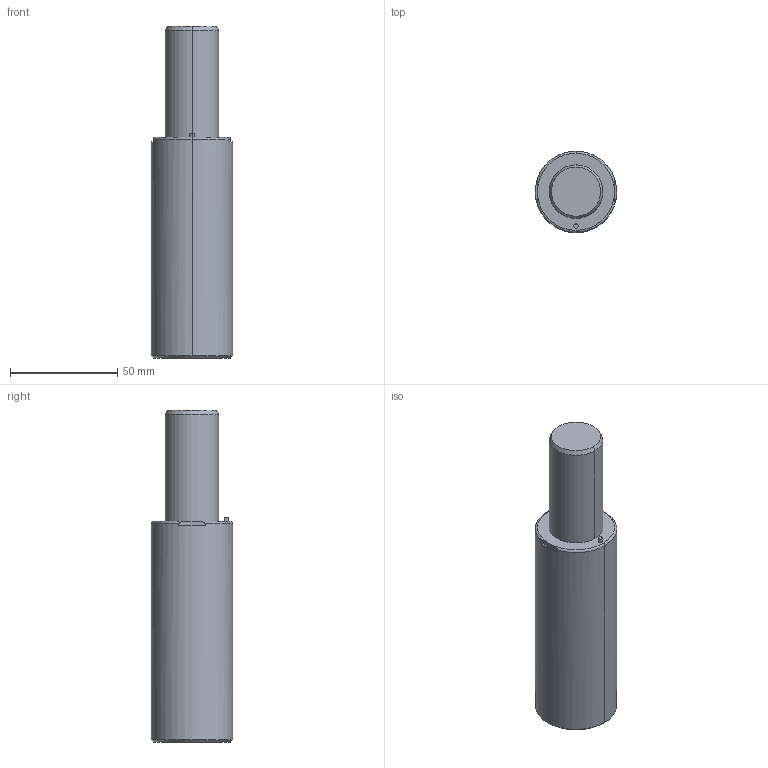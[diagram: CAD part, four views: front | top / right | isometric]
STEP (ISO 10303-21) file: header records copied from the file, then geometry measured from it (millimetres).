
FILE_DESCRIPTION(/* description */ (''),/* implementation_level */ '2;1');
FILE_NAME(/* name */ '3d_gsx38-50_03987_r00.stp',/* time_stamp */ '2011-01-10T14:15:13+09:00',/* author */ ('MISUMI'),/* organization */ (''),/* preprocessor_version */ 'ST-DEVELOPER v11',/* originating_system */ 'UGS - NX 5.0',/* authorisation */ '');
FILE_SCHEMA (('CONFIG_CONTROL_DESIGN'));
Length unit declared in the file: millimetre
Products named in the file (1): 3d_gsx38-50_03987_r00
Bounding box: 38 x 38 x 155 mm (x, y, z)
Volume: 140276.2 mm3; surface area: 19769.2 mm2
Topology: 1 solids, 1 shells, 59 faces, 128 edges, 76 vertices
Faces by surface type: cylinder 28, plane 15, cone 12, torus 4
Entity records: 1718 total; most frequent: CARTESIAN_POINT 328, DIRECTION 306, ORIENTED_EDGE 240, AXIS2_PLACEMENT_3D 130, EDGE_CURVE 120, VERTEX_POINT 76, EDGE_LOOP 72, CIRCLE 70
